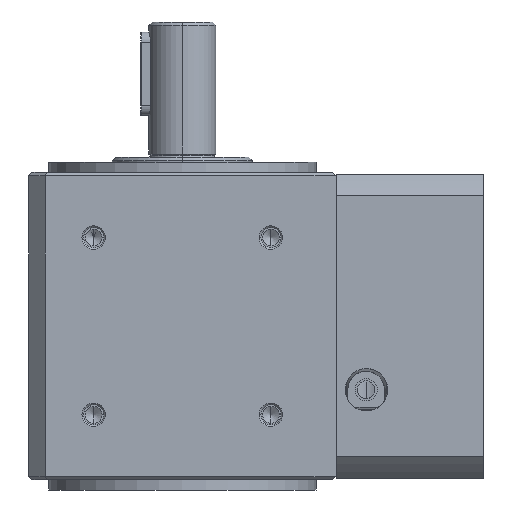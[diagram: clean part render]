
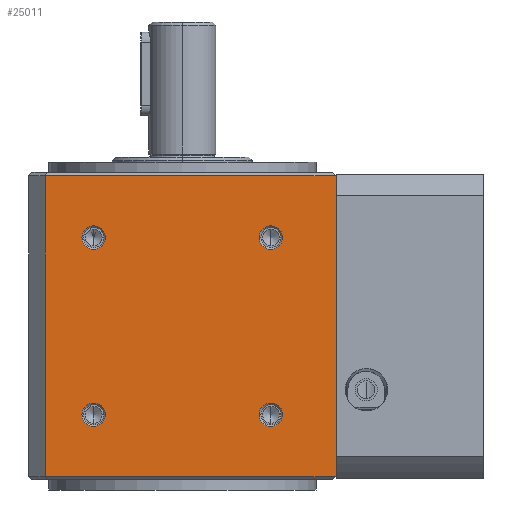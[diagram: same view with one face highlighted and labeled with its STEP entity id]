
A CAD part, front view. The second image highlights one B-rep face of the part: STEP entity #25011.
In plain terms, the highlighted planar face has unit normal (0, -1, 0).
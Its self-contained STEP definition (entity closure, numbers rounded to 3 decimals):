
#2747 = CIRCLE ( 'NONE', #2819, 3.5 ) ;
#2750 = DIRECTION ( 'NONE',  ( 0., 0., -1. ) ) ;
#2751 = DIRECTION ( 'NONE',  ( 0., -1., 0. ) ) ;
#2752 = CARTESIAN_POINT ( 'NONE',  ( 26.517, -46., 75.517 ) ) ;
#2753 = AXIS2_PLACEMENT_3D ( 'NONE', #2752, #2751, #2750 ) ;
#2754 = CIRCLE ( 'NONE', #2753, 3.5 ) ;
#2806 = CARTESIAN_POINT ( 'NONE',  ( -26.517, -46., 22.483 ) ) ;
#2816 = DIRECTION ( 'NONE',  ( 0., 0., -1. ) ) ;
#2817 = DIRECTION ( 'NONE',  ( 0., -1., 0. ) ) ;
#2818 = CARTESIAN_POINT ( 'NONE',  ( -26.517, -46., 75.517 ) ) ;
#2819 = AXIS2_PLACEMENT_3D ( 'NONE', #2818, #2817, #2816 ) ;
#2922 = DIRECTION ( 'NONE',  ( 0., 0., -1. ) ) ;
#2923 = DIRECTION ( 'NONE',  ( 0., -1., 0. ) ) ;
#2924 = AXIS2_PLACEMENT_3D ( 'NONE', #2806, #2923, #2922 ) ;
#2925 = CIRCLE ( 'NONE', #2924, 3.5 ) ;
#11799 = CIRCLE ( 'NONE', #11885, 3.5 ) ;
#11846 = CARTESIAN_POINT ( 'NONE',  ( -26.517, -46., 79.017 ) ) ;
#11857 = DIRECTION ( 'NONE',  ( 0., 0., -1. ) ) ;
#11858 = DIRECTION ( 'NONE',  ( 0., -1., 0. ) ) ;
#11874 = DIRECTION ( 'NONE',  ( 0., 0., -1. ) ) ;
#11875 = DIRECTION ( 'NONE',  ( 0., -1., 0. ) ) ;
#11885 = AXIS2_PLACEMENT_3D ( 'NONE', #11938, #11858, #11857 ) ;
#11893 = CARTESIAN_POINT ( 'NONE',  ( 26.517, -46., 75.517 ) ) ;
#11894 = AXIS2_PLACEMENT_3D ( 'NONE', #11893, #11875, #11874 ) ;
#11895 = CIRCLE ( 'NONE', #11894, 3.5 ) ;
#11912 = CARTESIAN_POINT ( 'NONE',  ( -26.517, -46., 72.017 ) ) ;
#11937 = CARTESIAN_POINT ( 'NONE',  ( 26.517, -46., 79.017 ) ) ;
#11938 = CARTESIAN_POINT ( 'NONE',  ( -26.517, -46., 75.517 ) ) ;
#18689 = CARTESIAN_POINT ( 'NONE',  ( 26.517, -46., 72.017 ) ) ;
#18716 = DIRECTION ( 'NONE',  ( 0., 0., -1. ) ) ;
#18717 = DIRECTION ( 'NONE',  ( 0., -1., 0. ) ) ;
#18718 = CARTESIAN_POINT ( 'NONE',  ( -26.517, -46., 22.483 ) ) ;
#18719 = AXIS2_PLACEMENT_3D ( 'NONE', #18718, #18717, #18716 ) ;
#18720 = CIRCLE ( 'NONE', #18719, 3.5 ) ;
#18721 = CARTESIAN_POINT ( 'NONE',  ( -26.517, -46., 25.983 ) ) ;
#18874 = CARTESIAN_POINT ( 'NONE',  ( -26.517, -46., 18.983 ) ) ;
#18875 = CARTESIAN_POINT ( 'NONE',  ( 26.517, -46., 18.983 ) ) ;
#18876 = DIRECTION ( 'NONE',  ( 0., 0., -1. ) ) ;
#18877 = DIRECTION ( 'NONE',  ( 0., -1., 0. ) ) ;
#18878 = CARTESIAN_POINT ( 'NONE',  ( 26.517, -46., 22.483 ) ) ;
#18879 = AXIS2_PLACEMENT_3D ( 'NONE', #18878, #18877, #18876 ) ;
#18880 = CIRCLE ( 'NONE', #18879, 3.5 ) ;
#18888 = CARTESIAN_POINT ( 'NONE',  ( 26.517, -46., 25.983 ) ) ;
#20745 = VERTEX_POINT ( 'NONE', #18721 ) ;
#20748 = EDGE_CURVE ( 'NONE', #20745, #20762, #18720, .T. ) ;
#20758 = VERTEX_POINT ( 'NONE', #18888 ) ;
#20760 = EDGE_CURVE ( 'NONE', #20758, #20761, #18880, .T. ) ;
#20761 = VERTEX_POINT ( 'NONE', #18875 ) ;
#20762 = VERTEX_POINT ( 'NONE', #18874 ) ;
#20824 = VERTEX_POINT ( 'NONE', #18689 ) ;
#20845 = EDGE_CURVE ( 'NONE', #20891, #20846, #11799, .T. ) ;
#20846 = VERTEX_POINT ( 'NONE', #11912 ) ;
#20876 = VERTEX_POINT ( 'NONE', #11937 ) ;
#20878 = EDGE_CURVE ( 'NONE', #20876, #20824, #11895, .T. ) ;
#20891 = VERTEX_POINT ( 'NONE', #11846 ) ;
#24937 = VERTEX_POINT ( 'NONE', #30646 ) ;
#24938 = ORIENTED_EDGE ( 'NONE', *, *, #24939, .F. ) ;
#24939 = EDGE_CURVE ( 'NONE', #25036, #24937, #30644, .T. ) ;
#24957 = VERTEX_POINT ( 'NONE', #30725 ) ;
#24958 = VERTEX_POINT ( 'NONE', #30724 ) ;
#24959 = EDGE_CURVE ( 'NONE', #20761, #20758, #30722, .T. ) ;
#24960 = EDGE_LOOP ( 'NONE', ( #24961, #24976 ) ) ;
#24961 = ORIENTED_EDGE ( 'NONE', *, *, #24959, .F. ) ;
#24963 = EDGE_LOOP ( 'NONE', ( #25074, #25076 ) ) ;
#24964 = ORIENTED_EDGE ( 'NONE', *, *, #24965, .T. ) ;
#24965 = EDGE_CURVE ( 'NONE', #24958, #24937, #30723, .T. ) ;
#24968 = ORIENTED_EDGE ( 'NONE', *, *, #24969, .T. ) ;
#24969 = EDGE_CURVE ( 'NONE', #24957, #24958, #30928, .T. ) ;
#24976 = ORIENTED_EDGE ( 'NONE', *, *, #20760, .F. ) ;
#24977 = EDGE_LOOP ( 'NONE', ( #24978, #25087 ) ) ;
#24978 = ORIENTED_EDGE ( 'NONE', *, *, #25086, .F. ) ;
#25011 = ADVANCED_FACE ( 'NONE', ( #30853, #30852, #30851, #30850, #30849 ), #30848, .F. ) ;
#25036 = VERTEX_POINT ( 'NONE', #30807 ) ;
#25037 = ORIENTED_EDGE ( 'NONE', *, *, #25038, .T. ) ;
#25038 = EDGE_CURVE ( 'NONE', #25036, #24957, #30776, .T. ) ;
#25074 = ORIENTED_EDGE ( 'NONE', *, *, #25075, .F. ) ;
#25075 = EDGE_CURVE ( 'NONE', #20762, #20745, #2925, .T. ) ;
#25076 = ORIENTED_EDGE ( 'NONE', *, *, #20748, .F. ) ;
#25086 = EDGE_CURVE ( 'NONE', #20824, #20876, #2754, .T. ) ;
#25087 = ORIENTED_EDGE ( 'NONE', *, *, #20878, .F. ) ;
#25088 = EDGE_LOOP ( 'NONE', ( #25091, #25093 ) ) ;
#25091 = ORIENTED_EDGE ( 'NONE', *, *, #25092, .F. ) ;
#25092 = EDGE_CURVE ( 'NONE', #20846, #20891, #2747, .T. ) ;
#25093 = ORIENTED_EDGE ( 'NONE', *, *, #20845, .F. ) ;
#25095 = EDGE_LOOP ( 'NONE', ( #24968, #24964, #24938, #25037 ) ) ;
#30641 = DIRECTION ( 'NONE',  ( 0., 0., -1. ) ) ;
#30642 = VECTOR ( 'NONE', #30641, 1000. ) ;
#30643 = CARTESIAN_POINT ( 'NONE',  ( 46.001, -46., 95. ) ) ;
#30644 = LINE ( 'NONE', #30643, #30642 ) ;
#30646 = CARTESIAN_POINT ( 'NONE',  ( 46.001, -46., 4. ) ) ;
#30715 = DIRECTION ( 'NONE',  ( 1., 0., 0. ) ) ;
#30716 = VECTOR ( 'NONE', #30715, 1000. ) ;
#30717 = CARTESIAN_POINT ( 'NONE',  ( 46.001, -46., 4. ) ) ;
#30718 = DIRECTION ( 'NONE',  ( 0., 0., -1. ) ) ;
#30719 = DIRECTION ( 'NONE',  ( 0., -1., 0. ) ) ;
#30720 = CARTESIAN_POINT ( 'NONE',  ( 26.517, -46., 22.483 ) ) ;
#30721 = AXIS2_PLACEMENT_3D ( 'NONE', #30720, #30719, #30718 ) ;
#30722 = CIRCLE ( 'NONE', #30721, 3.5 ) ;
#30723 = LINE ( 'NONE', #30717, #30716 ) ;
#30724 = CARTESIAN_POINT ( 'NONE',  ( -41., -46., 4. ) ) ;
#30725 = CARTESIAN_POINT ( 'NONE',  ( -41., -46., 94. ) ) ;
#30773 = DIRECTION ( 'NONE',  ( -1., 0., 0. ) ) ;
#30774 = VECTOR ( 'NONE', #30773, 1000. ) ;
#30775 = CARTESIAN_POINT ( 'NONE',  ( -41., -46., 94. ) ) ;
#30776 = LINE ( 'NONE', #30775, #30774 ) ;
#30807 = CARTESIAN_POINT ( 'NONE',  ( 46.001, -46., 94. ) ) ;
#30843 = DIRECTION ( 'NONE',  ( 0., 0., 1. ) ) ;
#30844 = DIRECTION ( 'NONE',  ( 0., 1., 0. ) ) ;
#30845 = AXIS2_PLACEMENT_3D ( 'NONE', #30847, #30844, #30843 ) ;
#30847 = CARTESIAN_POINT ( 'NONE',  ( -46., -46., 98. ) ) ;
#30848 = PLANE ( 'NONE',  #30845 ) ;
#30849 = FACE_OUTER_BOUND ( 'NONE', #25095, .T. ) ;
#30850 = FACE_BOUND ( 'NONE', #25088, .T. ) ;
#30851 = FACE_BOUND ( 'NONE', #24977, .T. ) ;
#30852 = FACE_BOUND ( 'NONE', #24960, .T. ) ;
#30853 = FACE_BOUND ( 'NONE', #24963, .T. ) ;
#30925 = DIRECTION ( 'NONE',  ( 0., 0., -1. ) ) ;
#30926 = VECTOR ( 'NONE', #30925, 1000. ) ;
#30927 = CARTESIAN_POINT ( 'NONE',  ( -41., -46., 98. ) ) ;
#30928 = LINE ( 'NONE', #30927, #30926 ) ;
